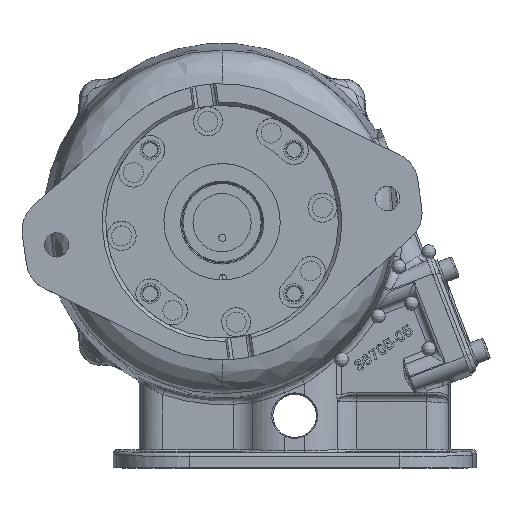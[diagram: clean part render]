
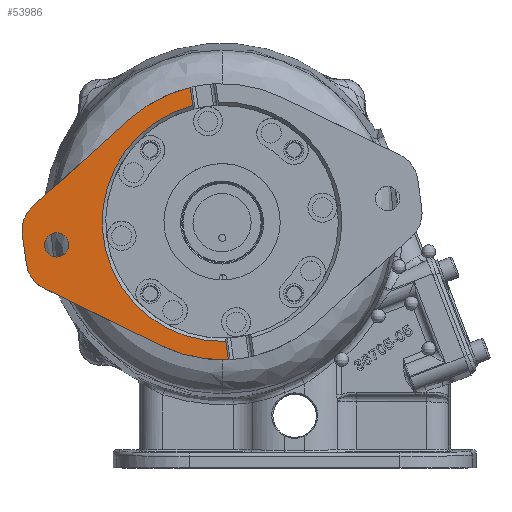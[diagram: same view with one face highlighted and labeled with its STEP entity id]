
A CAD part, top view. The second image highlights one B-rep face of the part: STEP entity #53986.
In plain terms, the highlighted planar face has unit normal (0, 0, 1) as drawn and (0, 0, -1) by its records, which use the part's own axes.
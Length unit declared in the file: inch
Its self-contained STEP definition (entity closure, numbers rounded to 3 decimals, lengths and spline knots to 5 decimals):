
#1190 = CIRCLE ( 'NONE', #19766, 2.375 ) ;
#1281 = CARTESIAN_POINT ( 'NONE',  ( 3.18816, -0.71425, 0. ) ) ;
#1645 = DIRECTION ( 'NONE',  ( 0., 0., -1. ) ) ;
#3647 = VERTEX_POINT ( 'NONE', #43796 ) ;
#4061 = DIRECTION ( 'NONE',  ( 1., 0., 0. ) ) ;
#5351 = FACE_BOUND ( 'NONE', #103632, .T. ) ;
#5704 = AXIS2_PLACEMENT_3D ( 'NONE', #120017, #96031, #121414 ) ;
#6676 = VERTEX_POINT ( 'NONE', #132597 ) ;
#7063 = VERTEX_POINT ( 'NONE', #18361 ) ;
#7934 = VERTEX_POINT ( 'NONE', #138706 ) ;
#9602 = ORIENTED_EDGE ( 'NONE', *, *, #138753, .F. ) ;
#12608 = CIRCLE ( 'NONE', #98445, 2.061 ) ;
#17391 = LINE ( 'NONE', #105386, #45329 ) ;
#18361 = CARTESIAN_POINT ( 'NONE',  ( 0.2214, -2.36466, 0. ) ) ;
#18958 = DIRECTION ( 'NONE',  ( 0., 0., 1. ) ) ;
#19766 = AXIS2_PLACEMENT_3D ( 'NONE', #95213, #139518, #84318 ) ;
#21051 = AXIS2_PLACEMENT_3D ( 'NONE', #109116, #18958, #85890 ) ;
#22824 = LINE ( 'NONE', #142810, #47603 ) ;
#22886 = CARTESIAN_POINT ( 'NONE',  ( 1.32814, -1.96893, 0. ) ) ;
#23445 = CARTESIAN_POINT ( 'NONE',  ( 0., 0., 0. ) ) ;
#23831 = CARTESIAN_POINT ( 'NONE',  ( 0., 0., 0. ) ) ;
#23896 = EDGE_CURVE ( 'NONE', #132435, #116133, #100890, .T. ) ;
#24608 = VECTOR ( 'NONE', #78405, 39.37008 ) ;
#28037 = ORIENTED_EDGE ( 'NONE', *, *, #93318, .F. ) ;
#30384 = ORIENTED_EDGE ( 'NONE', *, *, #56163, .F. ) ;
#33302 = CARTESIAN_POINT ( 'NONE',  ( 3.0835, 0., 0. ) ) ;
#35956 = CIRCLE ( 'NONE', #5704, 0.2085 ) ;
#42102 = LINE ( 'NONE', #1281, #24608 ) ;
#42763 = VERTEX_POINT ( 'NONE', #124377 ) ;
#43280 = DIRECTION ( 'NONE',  ( 0., -1., 0. ) ) ;
#43796 = CARTESIAN_POINT ( 'NONE',  ( 0.2214, -2.04907, 0. ) ) ;
#45329 = VECTOR ( 'NONE', #106121, 39.37008 ) ;
#46245 = CARTESIAN_POINT ( 'NONE',  ( 3.18816, 0.71425, 0. ) ) ;
#47603 = VECTOR ( 'NONE', #43280, 39.37008 ) ;
#49758 = FACE_OUTER_BOUND ( 'NONE', #75844, .T. ) ;
#53900 = VERTEX_POINT ( 'NONE', #22886 ) ;
#53986 = ADVANCED_FACE ( 'NONE', ( #5351, #49758 ), #64815, .F. ) ;
#54504 = VERTEX_POINT ( 'NONE', #33302 ) ;
#55376 = DIRECTION ( 'NONE',  ( 0., 0., 1. ) ) ;
#56163 = EDGE_CURVE ( 'NONE', #53900, #7934, #42102, .T. ) ;
#56930 = AXIS2_PLACEMENT_3D ( 'NONE', #82586, #115286, #4061 ) ;
#60463 = ORIENTED_EDGE ( 'NONE', *, *, #91009, .F. ) ;
#61145 = CARTESIAN_POINT ( 'NONE',  ( 3.435, -0.25, 0. ) ) ;
#61331 = EDGE_CURVE ( 'NONE', #7934, #132435, #94326, .T. ) ;
#64189 = AXIS2_PLACEMENT_3D ( 'NONE', #130993, #130279, #88156 ) ;
#64815 = PLANE ( 'NONE',  #21051 ) ;
#65754 = VERTEX_POINT ( 'NONE', #88838 ) ;
#70509 = AXIS2_PLACEMENT_3D ( 'NONE', #109845, #55376, #143287 ) ;
#73671 = AXIS2_PLACEMENT_3D ( 'NONE', #23831, #113288, #80578 ) ;
#75844 = EDGE_LOOP ( 'NONE', ( #101277, #60463, #98772, #81883, #131879, #30384, #28037, #87352, #108117, #9602 ) ) ;
#78405 = DIRECTION ( 'NONE',  ( 0.829, 0.559, 0. ) ) ;
#78415 = CARTESIAN_POINT ( 'NONE',  ( 3.435, 0.90451, 0. ) ) ;
#80578 = DIRECTION ( 'NONE',  ( 1., 0., 0. ) ) ;
#81883 = ORIENTED_EDGE ( 'NONE', *, *, #23896, .F. ) ;
#82254 = LINE ( 'NONE', #104770, #124464 ) ;
#82586 = CARTESIAN_POINT ( 'NONE',  ( 2.875, 0.25, 0. ) ) ;
#84318 = DIRECTION ( 'NONE',  ( 1., 0., 0. ) ) ;
#85890 = DIRECTION ( 'NONE',  ( 1., 0., 0. ) ) ;
#86083 = VECTOR ( 'NONE', #99488, 39.37008 ) ;
#87352 = ORIENTED_EDGE ( 'NONE', *, *, #89067, .F. ) ;
#87826 = CARTESIAN_POINT ( 'NONE',  ( 2.6665, 0., 0. ) ) ;
#88156 = DIRECTION ( 'NONE',  ( 1., 0., 0. ) ) ;
#88838 = CARTESIAN_POINT ( 'NONE',  ( 0.2214, 2.04907, 0. ) ) ;
#89067 = EDGE_CURVE ( 'NONE', #3647, #7063, #17391, .T. ) ;
#89089 = EDGE_CURVE ( 'NONE', #42763, #6676, #1190, .T. ) ;
#91009 = EDGE_CURVE ( 'NONE', #128888, #42763, #82254, .T. ) ;
#93318 = EDGE_CURVE ( 'NONE', #7063, #53900, #106110, .T. ) ;
#94326 = CIRCLE ( 'NONE', #64189, 0.56 ) ;
#95213 = CARTESIAN_POINT ( 'NONE',  ( 0., 0., 0. ) ) ;
#96031 = DIRECTION ( 'NONE',  ( 0., 0., 1. ) ) ;
#96112 = CIRCLE ( 'NONE', #70509, 0.2085 ) ;
#98445 = AXIS2_PLACEMENT_3D ( 'NONE', #23445, #1645, #127605 ) ;
#98772 = ORIENTED_EDGE ( 'NONE', *, *, #132038, .F. ) ;
#99488 = DIRECTION ( 'NONE',  ( 0., 1., 0. ) ) ;
#100890 = LINE ( 'NONE', #78415, #86083 ) ;
#101277 = ORIENTED_EDGE ( 'NONE', *, *, #89089, .F. ) ;
#103632 = EDGE_LOOP ( 'NONE', ( #138641, #123873 ) ) ;
#104770 = CARTESIAN_POINT ( 'NONE',  ( 1.32814, 1.96893, 0. ) ) ;
#105386 = CARTESIAN_POINT ( 'NONE',  ( 0.2214, 0.90451, 0. ) ) ;
#105480 = DIRECTION ( 'NONE',  ( -0.829, 0.559, 0. ) ) ;
#106110 = CIRCLE ( 'NONE', #73671, 2.375 ) ;
#106121 = DIRECTION ( 'NONE',  ( 0., -1., 0. ) ) ;
#106630 = EDGE_CURVE ( 'NONE', #65754, #3647, #12608, .T. ) ;
#107380 = VERTEX_POINT ( 'NONE', #87826 ) ;
#108117 = ORIENTED_EDGE ( 'NONE', *, *, #106630, .F. ) ;
#109116 = CARTESIAN_POINT ( 'NONE',  ( -1.42469, 0.90451, 0. ) ) ;
#109845 = CARTESIAN_POINT ( 'NONE',  ( 2.875, 0., 0. ) ) ;
#110341 = CIRCLE ( 'NONE', #56930, 0.56 ) ;
#113288 = DIRECTION ( 'NONE',  ( 0., 0., 1. ) ) ;
#115286 = DIRECTION ( 'NONE',  ( 0., 0., 1. ) ) ;
#116133 = VERTEX_POINT ( 'NONE', #118402 ) ;
#118402 = CARTESIAN_POINT ( 'NONE',  ( 3.435, 0.25, 0. ) ) ;
#120017 = CARTESIAN_POINT ( 'NONE',  ( 2.875, 0., 0. ) ) ;
#121414 = DIRECTION ( 'NONE',  ( -1., 0., 0. ) ) ;
#123873 = ORIENTED_EDGE ( 'NONE', *, *, #127965, .T. ) ;
#124377 = CARTESIAN_POINT ( 'NONE',  ( 1.32814, 1.96893, 0. ) ) ;
#124464 = VECTOR ( 'NONE', #105480, 39.37008 ) ;
#127062 = EDGE_CURVE ( 'NONE', #107380, #54504, #35956, .T. ) ;
#127605 = DIRECTION ( 'NONE',  ( -1., 0., 0. ) ) ;
#127965 = EDGE_CURVE ( 'NONE', #54504, #107380, #96112, .T. ) ;
#128888 = VERTEX_POINT ( 'NONE', #46245 ) ;
#130279 = DIRECTION ( 'NONE',  ( 0., 0., 1. ) ) ;
#130993 = CARTESIAN_POINT ( 'NONE',  ( 2.875, -0.25, 0. ) ) ;
#131879 = ORIENTED_EDGE ( 'NONE', *, *, #61331, .F. ) ;
#132038 = EDGE_CURVE ( 'NONE', #116133, #128888, #110341, .T. ) ;
#132435 = VERTEX_POINT ( 'NONE', #61145 ) ;
#132597 = CARTESIAN_POINT ( 'NONE',  ( 0.2214, 2.36466, 0. ) ) ;
#138641 = ORIENTED_EDGE ( 'NONE', *, *, #127062, .T. ) ;
#138706 = CARTESIAN_POINT ( 'NONE',  ( 3.18816, -0.71425, 0. ) ) ;
#138753 = EDGE_CURVE ( 'NONE', #6676, #65754, #22824, .T. ) ;
#139518 = DIRECTION ( 'NONE',  ( 0., 0., 1. ) ) ;
#142810 = CARTESIAN_POINT ( 'NONE',  ( 0.2214, 0.90451, 0. ) ) ;
#143287 = DIRECTION ( 'NONE',  ( -1., 0., 0. ) ) ;
